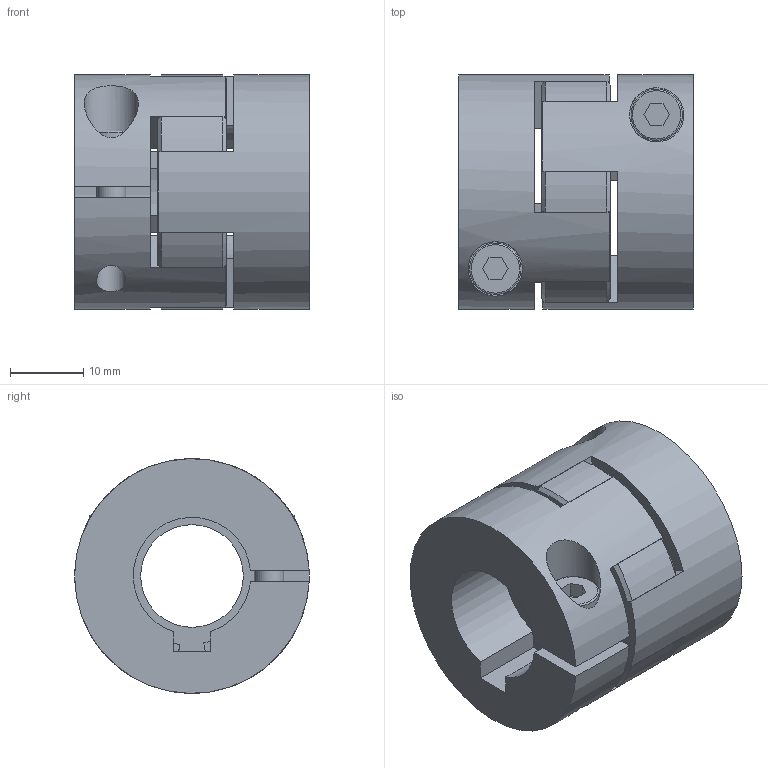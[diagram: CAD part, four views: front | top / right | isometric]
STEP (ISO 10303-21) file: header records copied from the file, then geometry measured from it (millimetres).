
FILE_DESCRIPTION(/* description */ ('STEP AP214'),/* implementation_level */ '2;1');
FILE_NAME(/* name */ 'C:\Diequa Files\DieQua Coupling\ECC\STP\ECC.10.ABC.#.#.stp',/* time_stamp */ '2018-12-07T10:42:12-06:00',/* author */ ('DiequaCAD'),/* organization */ (''),/* preprocessor_version */ 'ST-DEVELOPER v17.2',/* originating_system */ 'Autodesk Inventor 2019',/* authorisation */ ' ');
FILE_SCHEMA (('AUTOMOTIVE_DESIGN { 1 0 10303 214 3 1 1 }'));
Length unit declared in the file: millimetre
Products named in the file (4): EKL_10_A_16_PFN_16_PFN_26; 2018_11_29__15-36-43-056; 2018_11_29__15-36-43-056_1; 2018_11_29__15-36-43-056_2
Assembly tree (3 placements, depth 2):
  EKL_10_A_16_PFN_16_PFN_26
    2018_11_29__15-36-43-056
    2018_11_29__15-36-43-056_1
    2018_11_29__15-36-43-056_2
Bounding box: 32 x 32 x 32 mm (x, y, z)
Volume: 17947.5 mm3; surface area: 10905.5 mm2
Topology: 3 solids, 3 shells, 121 faces, 333 edges, 228 vertices
Faces by surface type: plane 72, cylinder 35, cone 12, torus 2
Full cylindrical faces by diameter (mm): 4 x4, 4.2 x2, 7 x2, 7.4 x2, 14 x1
Entity records: 4207 total; most frequent: CARTESIAN_POINT 841, DIRECTION 697, ORIENTED_EDGE 666, EDGE_CURVE 333, AXIS2_PLACEMENT_3D 244, VERTEX_POINT 228, LINE 209, VECTOR 209
